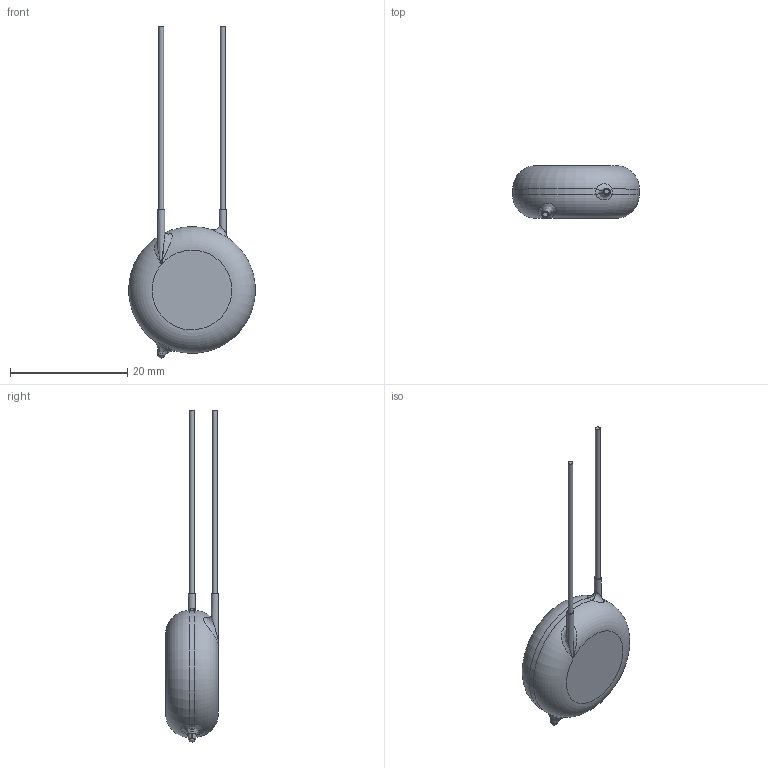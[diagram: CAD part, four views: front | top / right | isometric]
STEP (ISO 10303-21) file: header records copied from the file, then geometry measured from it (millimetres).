
FILE_DESCRIPTION(/* description */ (''),/* implementation_level */ '2;1');
FILE_NAME(/* name */ 'I:\Marketing\M6t1\3D-Models\Zchng-Werk-3\Upload for homepage\Ceramite\Y5U\440LS20-R\440LS20-R.stp',/* time_stamp */ '2016-11-15T13:13:22+01:00',/* author */ ('sheinrich'),/* organization */ (''),/* preprocessor_version */ 'ST-DEVELOPER v16.1',/* originating_system */ 'Autodesk Inventor 2016',/* authorisation */ '');
FILE_SCHEMA (('AUTOMOTIVE_DESIGN { 1 0 10303 214 3 1 1 }'));
Length unit declared in the file: millimetre
Products named in the file (1): 440LS20-R
Bounding box: 21.53 x 9 x 56.6 mm (x, y, z)
Volume: 2923.4 mm3; surface area: 1298.4 mm2
Topology: 1 solids, 1 shells, 31 faces, 66 edges, 37 vertices
Faces by surface type: bspline 12, cylinder 9, plane 7, torus 2, sphere 1
Full cylindrical faces by diameter (mm): 0.81 x2, 1.2 x2
Entity records: 1329 total; most frequent: CARTESIAN_POINT 721, ORIENTED_EDGE 108, DIRECTION 96, EDGE_CURVE 54, AXIS2_PLACEMENT_3D 46, EDGE_LOOP 39, VERTEX_POINT 33, STYLED_ITEM 32
